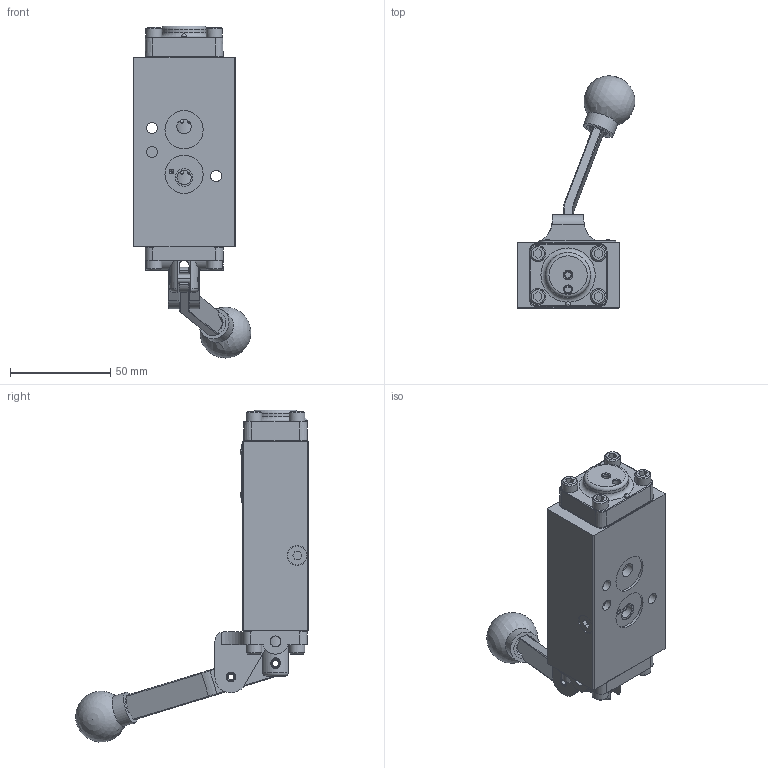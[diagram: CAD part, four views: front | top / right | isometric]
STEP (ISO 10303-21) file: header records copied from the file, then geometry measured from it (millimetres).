
FILE_DESCRIPTION(/* description */ (''),/* implementation_level */ '2;1');
FILE_NAME(/* name */ 'D:\Engineering\Product\valves\Assembly\lever\HA\stp\NHA2BLH.stp',/* time_stamp */ '2022-06-28T07:46:31-04:00',/* author */ ('RMcKenna'),/* organization */ (''),/* preprocessor_version */ 'ST-DEVELOPER v18.1',/* originating_system */ 'Autodesk Inventor 2021',/* authorisation */ '');
FILE_SCHEMA (('AUTOMOTIVE_DESIGN { 1 0 10303 214 3 1 1 }'));
Length unit declared in the file: centimetre
Products named in the file (1): Part65
Bounding box: 58.71 x 115.91 x 165.36 mm (x, y, z)
Volume: 176991 mm3; surface area: 59742.5 mm2
Topology: 1 solids, 24 shells, 1168 faces, 2859 edges, 1815 vertices
Faces by surface type: plane 488, cone 254, cylinder 239, torus 99, bspline 84, sphere 4
Full cylindrical faces by diameter (mm): 2.07 x2, 2.261 x2, 2.388 x2, 2.778 x2, 3.048 x1, 3.175 x3, 3.618 x1, 3.683 x10, 4.75 x2, 4.763 x2, 4.826 x8, 4.978 x4, 5.055 x1, 5.156 x8, 5.41 x1, 5.512 x1, 5.556 x2, 6.731 x1, 7.087 x1, 7.137 x3, 7.144 x4, 7.798 x1, 7.938 x8, 8.731 x2, 9.525 x2, 9.728 x1, 9.855 x1, 9.906 x1, 11.113 x4, 11.303 x3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
Entity records: 39751 total; most frequent: CARTESIAN_POINT 11479, ORIENTED_EDGE 5682, DIRECTION 5501, EDGE_CURVE 2841, AXIS2_PLACEMENT_3D 2064, VERTEX_POINT 1815, LINE 1373, VECTOR 1373
